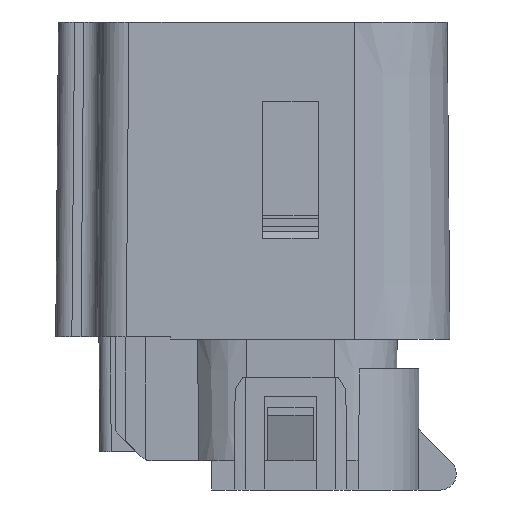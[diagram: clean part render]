
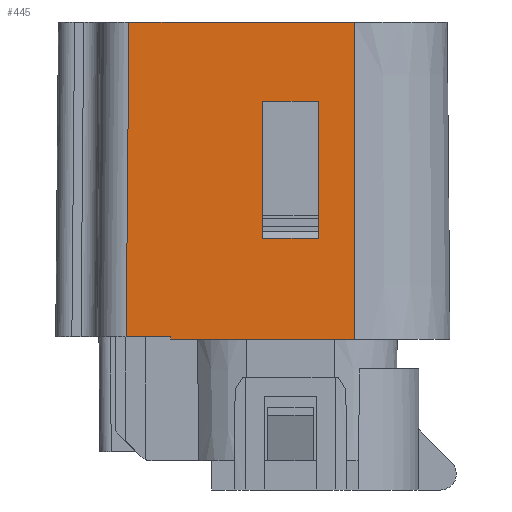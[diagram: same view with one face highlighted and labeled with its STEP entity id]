
A CAD part, left-side view. The second image highlights one B-rep face of the part: STEP entity #445.
In plain terms, the highlighted planar face has unit normal (-1, 0, 0.009).
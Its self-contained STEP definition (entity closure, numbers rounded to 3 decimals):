
#52=FACE_BOUND('',#1276,.T.);
#53=FACE_BOUND('',#1277,.T.);
#445=ADVANCED_FACE('',(#52,#53),#717,.F.);
#717=PLANE('',#6118);
#1276=EDGE_LOOP('',(#2208,#2209,#2210,#2211,#2212,#2213));
#1277=EDGE_LOOP('',(#2214,#2215,#2216,#2217));
#2208=ORIENTED_EDGE('',*,*,#4164,.T.);
#2209=ORIENTED_EDGE('',*,*,#4165,.T.);
#2210=ORIENTED_EDGE('',*,*,#4159,.F.);
#2211=ORIENTED_EDGE('',*,*,#3870,.T.);
#2212=ORIENTED_EDGE('',*,*,#3830,.F.);
#2213=ORIENTED_EDGE('',*,*,#3868,.F.);
#2214=ORIENTED_EDGE('',*,*,#4166,.F.);
#2215=ORIENTED_EDGE('',*,*,#4167,.F.);
#2216=ORIENTED_EDGE('',*,*,#4168,.F.);
#2217=ORIENTED_EDGE('',*,*,#4169,.F.);
#3249=VERTEX_POINT('',#8229);
#3250=VERTEX_POINT('',#8231);
#3278=VERTEX_POINT('',#8305);
#3280=VERTEX_POINT('',#8311);
#3480=VERTEX_POINT('',#8933);
#3484=VERTEX_POINT('',#8943);
#3485=VERTEX_POINT('',#8946);
#3486=VERTEX_POINT('',#8947);
#3487=VERTEX_POINT('',#8949);
#3488=VERTEX_POINT('',#8951);
#3830=EDGE_CURVE('',#3249,#3250,#4679,.T.);
#3868=EDGE_CURVE('',#3278,#3249,#4711,.T.);
#3870=EDGE_CURVE('',#3280,#3250,#4713,.T.);
#4159=EDGE_CURVE('',#3280,#3480,#4922,.T.);
#4164=EDGE_CURVE('',#3278,#3484,#4925,.T.);
#4165=EDGE_CURVE('',#3484,#3480,#4926,.T.);
#4166=EDGE_CURVE('',#3485,#3486,#4927,.T.);
#4167=EDGE_CURVE('',#3487,#3485,#4928,.T.);
#4168=EDGE_CURVE('',#3488,#3487,#4929,.T.);
#4169=EDGE_CURVE('',#3486,#3488,#4930,.T.);
#4679=LINE('',#8230,#5352);
#4711=LINE('',#8307,#5384);
#4713=LINE('',#8310,#5386);
#4922=LINE('',#8932,#5595);
#4925=LINE('',#8942,#5598);
#4926=LINE('',#8944,#5599);
#4927=LINE('',#8945,#5600);
#4928=LINE('',#8948,#5601);
#4929=LINE('',#8950,#5602);
#4930=LINE('',#8952,#5603);
#5352=VECTOR('',#6566,1.);
#5384=VECTOR('',#6628,1.);
#5386=VECTOR('',#6632,1.);
#5595=VECTOR('',#7159,1.);
#5598=VECTOR('',#7168,1.);
#5599=VECTOR('',#7169,1.);
#5600=VECTOR('',#7170,1.);
#5601=VECTOR('',#7171,1.);
#5602=VECTOR('',#7172,1.);
#5603=VECTOR('',#7173,1.);
#6118=AXIS2_PLACEMENT_3D('',#8953,#7174,#7175);
#6566=DIRECTION('',(0.,1.,0.));
#6628=DIRECTION('',(0.009,-0.009,1.));
#6632=DIRECTION('',(-0.009,0.009,-1.));
#7159=DIRECTION('',(0.,-1.,0.));
#7168=DIRECTION('',(0.,-1.,0.));
#7169=DIRECTION('',(0.009,0.,1.));
#7170=DIRECTION('',(0.,-1.,0.));
#7171=DIRECTION('',(-0.009,0.,-1.));
#7172=DIRECTION('',(0.,1.,0.));
#7173=DIRECTION('',(0.009,0.,1.));
#7174=DIRECTION('',(1.,0.,-0.009));
#7175=DIRECTION('',(-0.009,0.,-1.));
#8229=CARTESIAN_POINT('',(-11.031,7.419,-14.059));
#8230=CARTESIAN_POINT('',(-11.031,-3.961,-14.059));
#8231=CARTESIAN_POINT('',(-11.031,10.181,-14.059));
#8305=CARTESIAN_POINT('',(-11.032,7.421,-14.209));
#8307=CARTESIAN_POINT('',(-11.031,7.419,-14.059));
#8310=CARTESIAN_POINT('',(-10.86,10.01,5.563));
#8311=CARTESIAN_POINT('',(-10.861,10.011,5.441));
#8932=CARTESIAN_POINT('',(-10.861,-3.961,5.441));
#8933=CARTESIAN_POINT('',(-10.861,-3.961,5.441));
#8942=CARTESIAN_POINT('',(-11.032,-3.961,-14.209));
#8943=CARTESIAN_POINT('',(-11.032,-3.961,-14.209));
#8944=CARTESIAN_POINT('',(-10.861,-3.961,5.441));
#8945=CARTESIAN_POINT('',(-10.978,-1.725,-7.959));
#8946=CARTESIAN_POINT('',(-10.978,1.725,-7.959));
#8947=CARTESIAN_POINT('',(-10.978,-1.725,-7.959));
#8948=CARTESIAN_POINT('',(-10.978,1.725,-8.038));
#8949=CARTESIAN_POINT('',(-10.903,1.725,0.541));
#8950=CARTESIAN_POINT('',(-10.903,1.725,0.541));
#8951=CARTESIAN_POINT('',(-10.903,-1.725,0.541));
#8952=CARTESIAN_POINT('',(-10.904,-1.725,0.462));
#8953=CARTESIAN_POINT('',(-10.861,-3.961,5.441));
